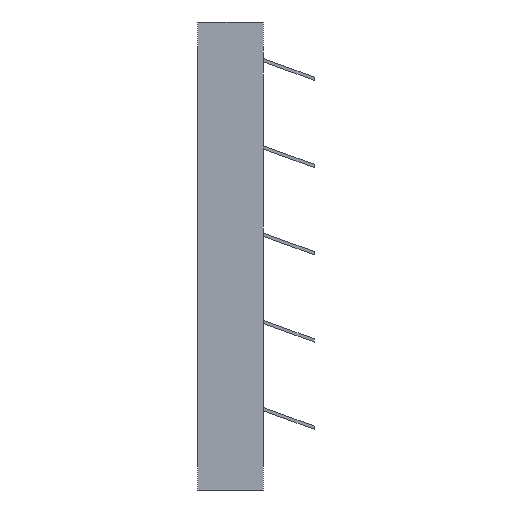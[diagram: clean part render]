
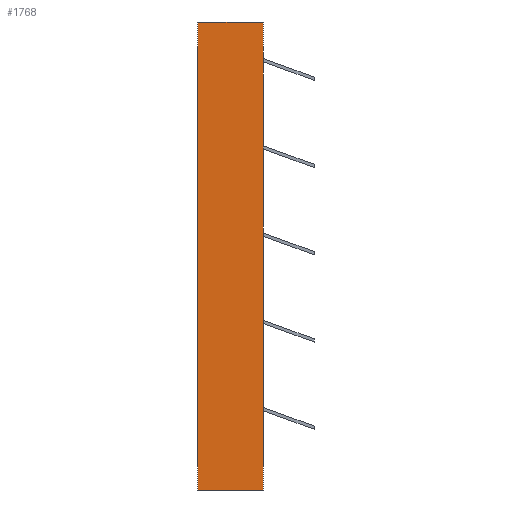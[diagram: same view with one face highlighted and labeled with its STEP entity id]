
A CAD part, left-side view. The second image highlights one B-rep face of the part: STEP entity #1768.
In plain terms, the highlighted planar face has unit normal (-1, 0, 0).
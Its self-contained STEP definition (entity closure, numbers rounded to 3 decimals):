
#246=LINE('',#2764,#486);
#251=LINE('',#2774,#491);
#252=LINE('',#2777,#492);
#253=LINE('',#2778,#493);
#486=VECTOR('',#2278,10.);
#491=VECTOR('',#2287,10.);
#492=VECTOR('',#2290,10.);
#493=VECTOR('',#2291,10.);
#572=PLANE('',#1868);
#672=FACE_OUTER_BOUND('',#766,.T.);
#766=EDGE_LOOP('',(#1659,#1660,#1661,#1662));
#927=VERTEX_POINT('',#2757);
#930=VERTEX_POINT('',#2762);
#933=VERTEX_POINT('',#2772);
#934=VERTEX_POINT('',#2776);
#1174=EDGE_CURVE('',#930,#927,#246,.T.);
#1179=EDGE_CURVE('',#933,#930,#251,.T.);
#1180=EDGE_CURVE('',#934,#933,#252,.T.);
#1181=EDGE_CURVE('',#927,#934,#253,.T.);
#1659=ORIENTED_EDGE('',*,*,#1179,.F.);
#1660=ORIENTED_EDGE('',*,*,#1180,.F.);
#1661=ORIENTED_EDGE('',*,*,#1181,.F.);
#1662=ORIENTED_EDGE('',*,*,#1174,.F.);
#1768=ADVANCED_FACE('',(#672),#572,.T.);
#1868=AXIS2_PLACEMENT_3D('',#2775,#2288,#2289);
#2278=DIRECTION('',(0.,0.,-1.));
#2287=DIRECTION('',(0.,-1.,0.));
#2288=DIRECTION('center_axis',(-1.,0.,0.));
#2289=DIRECTION('ref_axis',(0.,0.,1.));
#2290=DIRECTION('',(0.,0.,1.));
#2291=DIRECTION('',(0.,1.,0.));
#2757=CARTESIAN_POINT('',(-242.5,-20.,-142.5));
#2762=CARTESIAN_POINT('',(-242.5,-20.,142.5));
#2764=CARTESIAN_POINT('',(-242.5,-20.,142.5));
#2772=CARTESIAN_POINT('',(-242.5,20.,142.5));
#2774=CARTESIAN_POINT('',(-242.5,0.,142.5));
#2775=CARTESIAN_POINT('Origin',(-242.5,0.,-142.5));
#2776=CARTESIAN_POINT('',(-242.5,20.,-142.5));
#2777=CARTESIAN_POINT('',(-242.5,20.,142.5));
#2778=CARTESIAN_POINT('',(-242.5,0.,-142.5));
